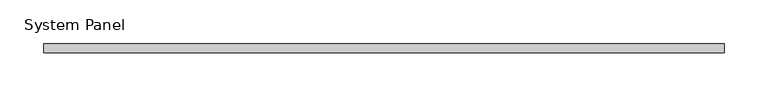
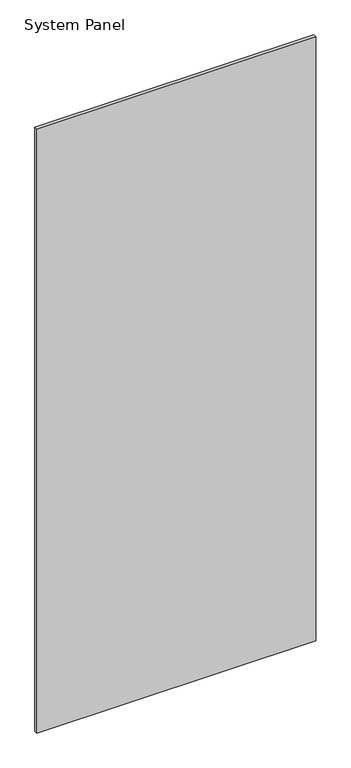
"""IFC4 building model written with IfcOpenShell, lengths in millimetres: plate geometry, System Panel : стекло_смещение_0."""

from ifc_helpers import new_model, si_unit, origin, origin_with_axes, place, context, project, spatial, polyline, outline, extrude, source, transform, mapped, element, save


def system_panel_52f632e3(model_context):
    return source(origin(), model_context, "Body", "SweptSolid", [
        extrude(outline(polyline([(387.5, -5.0), (-387.5, -5.0), (-387.5, 5.0), (387.5, 5.0), (387.5, -5.0)])), origin_with_axes(), (0.0, 0.0, 1.0), 1775.0),
    ])


if __name__ == "__main__":
    model = new_model("IFC4")
    model_context = context("Model", 3, world=origin())
    ifc_project = project(units=[si_unit("LENGTHUNIT", "METRE", prefix="MILLI")], contexts=[model_context])
    site = spatial("IfcSite", under=ifc_project)
    building = spatial("IfcBuilding", under=site)
    placement = place(None, origin())
    system_panel_shape = system_panel_52f632e3(model_context)
    element("IfcPlate", 1, ObjectType="System Panel : стекло_смещение_0", at=placement, inside=building, context=model_context, shape_type="MappedRepresentation", body=[
        mapped(system_panel_shape, transform((0.0, 0.0, 0.0), x_axis=(1.0, 0.0, 0.0), y_axis=(0.0, 1.0, 0.0), z_axis=(0.0, 0.0, 1.0))),
    ])
    save(model, "model.ifc")
